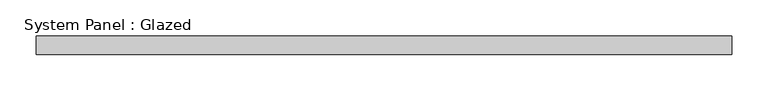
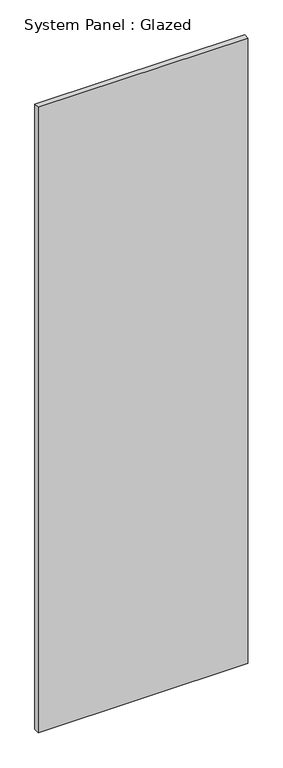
"""IFC4 building model written with IfcOpenShell, lengths in millimetres: plate geometry, System Panel : Glazed."""

import ifcopenshell
import ifcopenshell.guid

model = None  # the IFC model being written
_history = None  # IfcOwnerHistory: only IFC2X3 demands one
_inside = {}  # id of a spatial element -> (the spatial element, [elements in it])
_under = {}  # id of a project, library or spatial element -> (it, [spatial elements below it])
_declared = {}  # id of a project -> (the project, [libraries it declares])
_typed = {}  # id of a type object -> (the type object, [elements of that type])
_made_of = {}  # id of a material, layer set ... -> (it, [elements and type objects made of it])


def new_model(schema):
    """Start an empty IFC model of exactly this schema.

    Asked for "IFC4X3", IfcOpenShell would pick the latest addendum, in which some entities
    have other attributes; the version numbers below select the first issue.
    IFC2X3 requires an IfcOwnerHistory on every rooted entity: one is made here for all.
    """
    global model, _history
    if schema == "IFC4X3":
        model = ifcopenshell.file(schema_version=(4, 3, 0, 0))
    else:
        model = ifcopenshell.file(schema=schema)
    _inside.clear()
    _under.clear()
    _declared.clear()
    _typed.clear()
    _made_of.clear()
    _history = None
    if model.schema == "IFC2X3":
        org = make("IfcOrganization", Name="unknown")
        user = make(
            "IfcPersonAndOrganization",
            ThePerson=make("IfcPerson", FamilyName="unknown"),
            TheOrganization=org,
        )
        app = make(
            "IfcApplication",
            ApplicationDeveloper=org,
            Version="unknown",
            ApplicationFullName="unknown",
            ApplicationIdentifier="unknown",
        )
        _history = make(
            "IfcOwnerHistory",
            OwningUser=user,
            OwningApplication=app,
            ChangeAction="ADDED",
            CreationDate=0,
        )
    return model


def make(cls, **values):
    """One entity of the class cls with the attributes given. An attribute that is None is left unset."""
    return model.create_entity(
        cls, **{name: value for name, value in values.items() if value is not None}
    )


def rooted(cls, **values):
    """An entity with a GlobalId (a new one), such as an element, a storey or a relation."""
    return make(cls, GlobalId=ifcopenshell.guid.new(), OwnerHistory=_history, **values)


def si_unit(unit_type, name, prefix=None):
    """IfcSIUnit, for example si_unit("LENGTHUNIT", "METRE", prefix="MILLI")."""
    return make("IfcSIUnit", UnitType=unit_type, Prefix=prefix, Name=name)


def assignment(units):
    """IfcUnitAssignment: the units of a project."""
    return None if units is None else make("IfcUnitAssignment", Units=units)


def point(xyz):
    """IfcCartesianPoint."""
    return None if xyz is None else make("IfcCartesianPoint", Coordinates=xyz)


def direction(xyz):
    """IfcDirection."""
    return None if xyz is None else make("IfcDirection", DirectionRatios=xyz)


def frame(location, z_axis=None, x_axis=None):
    """IfcAxis2Placement3D, a coordinate frame: its origin and axes. An axis left out is left unset."""
    return make(
        "IfcAxis2Placement3D",
        Location=point(location),
        Axis=direction(z_axis),
        RefDirection=direction(x_axis),
    )


def origin():
    """The frame at (0, 0, 0) with its axes left unset."""
    return frame((0.0, 0.0, 0.0))


def origin_with_axes():
    """The frame at (0, 0, 0) with the z axis (0, 0, 1) and the x axis (1, 0, 0) written out."""
    return frame((0.0, 0.0, 0.0), z_axis=(0.0, 0.0, 1.0), x_axis=(1.0, 0.0, 0.0))


def place(relative_to, where):
    """IfcLocalPlacement: puts the frame where relative to a parent placement (None: the world)."""
    return make(
        "IfcLocalPlacement", PlacementRelTo=relative_to, RelativePlacement=where
    )


def context(
    kind, dimensions, precision=None, world=None, true_north=None, identifier=None
):
    """IfcGeometricRepresentationContext, for example the 3D "Model" context."""
    return make(
        "IfcGeometricRepresentationContext",
        ContextIdentifier=identifier,
        ContextType=kind,
        CoordinateSpaceDimension=dimensions,
        Precision=precision,
        WorldCoordinateSystem=world,
        TrueNorth=true_north,
    )


def project(units=None, contexts=None):
    """IfcProject with its units and contexts."""
    return rooted(
        "IfcProject",
        Name="project",
        RepresentationContexts=contexts,
        UnitsInContext=assignment(units),
    )


def spatial(cls, under=None, at=None, **own):
    """A site, building, storey or space (cls), placed at a placement, below another one or the project."""
    s = rooted(cls, ObjectPlacement=at, **own)
    if under is not None:
        _under.setdefault(under.id(), (under, []))[1].append(s)
    return s


def polyline(points):
    """IfcPolyline through the points."""
    return make("IfcPolyline", Points=[point(p) for p in points])


def outline(outer, holes=None, kind="AREA"):
    """IfcArbitraryClosedProfileDef: a profile drawn as a closed curve; with holes, ...WithVoids."""
    if holes is None:
        return make("IfcArbitraryClosedProfileDef", ProfileType=kind, OuterCurve=outer)
    return make(
        "IfcArbitraryProfileDefWithVoids",
        ProfileType=kind,
        OuterCurve=outer,
        InnerCurves=holes,
    )


def extrude(swept, where, along, depth):
    """IfcExtrudedAreaSolid: the profile swept, set in the frame where, extruded along a direction by depth."""
    return make(
        "IfcExtrudedAreaSolid",
        SweptArea=swept,
        Position=where,
        ExtrudedDirection=direction(along),
        Depth=depth,
    )


def shape(context_of_items, identifier, shape_type, items):
    """IfcShapeRepresentation: the items that make up one representation, for example the "Body"."""
    return make(
        "IfcShapeRepresentation",
        ContextOfItems=context_of_items,
        RepresentationIdentifier=identifier,
        RepresentationType=shape_type,
        Items=items,
    )


def source(mapping_origin, context_of_items, identifier, shape_type, items):
    """IfcRepresentationMap: a shape defined once, which mapped items show again and again."""
    return make(
        "IfcRepresentationMap",
        MappingOrigin=mapping_origin,
        MappedRepresentation=shape(context_of_items, identifier, shape_type, items),
    )


def transform(
    local_origin,
    x_axis=None,
    y_axis=None,
    z_axis=None,
    scale=None,
    scale2=None,
    scale3=None,
    uniform=True,
):
    """IfcCartesianTransformationOperator3D, or its non-uniform kind. x_axis, y_axis, z_axis: its Axis1, 2, 3."""
    if uniform:
        return make(
            "IfcCartesianTransformationOperator3D",
            Axis1=direction(x_axis),
            Axis2=direction(y_axis),
            LocalOrigin=point(local_origin),
            Scale=scale,
            Axis3=direction(z_axis),
        )
    return make(
        "IfcCartesianTransformationOperator3DnonUniform",
        Axis1=direction(x_axis),
        Axis2=direction(y_axis),
        LocalOrigin=point(local_origin),
        Scale=scale,
        Axis3=direction(z_axis),
        Scale2=scale2,
        Scale3=scale3,
    )


def mapped(mapping_source, mapping_target):
    """IfcMappedItem: shows the shape of a source again, moved by a transform."""
    return make(
        "IfcMappedItem", MappingSource=mapping_source, MappingTarget=mapping_target
    )


def made_of(thing, what):
    """Note that an element or type object is made of a material, layer set ...; save() writes the relation."""
    if what is not None:
        _made_of.setdefault(what.id(), (what, []))[1].append(thing)
    return thing


def element(
    cls,
    number,
    at=None,
    inside=None,
    cuts=None,
    type_object=None,
    material=None,
    context=None,
    identifier="Body",
    shape_type=None,
    held_by="IfcProductDefinitionShape",
    body=None,
    shapes=None,
    **own,
):
    """One element of the class cls, such as IfcWall. Its Tag is "e" and its number.

    at: its placement. inside: the storey or other place that contains it. cuts: it is an
    opening in that element (IfcRelVoidsElement). A single representation is given by context,
    identifier, shape_type and body (its items); several are given by shapes. held_by: the class
    of the entity that holds the representations. save() writes the other relations.
    """
    e = rooted(cls, Tag="e%d" % number, ObjectPlacement=at, **own)
    if body is not None:
        shapes = [shape(context, identifier, shape_type, body)]
    if shapes is not None:
        e.Representation = make(held_by, Representations=shapes)
    if inside is not None:
        _inside.setdefault(inside.id(), (inside, []))[1].append(e)
    if cuts is not None:
        rooted(
            "IfcRelVoidsElement", RelatingBuildingElement=cuts, RelatedOpeningElement=e
        )
    if type_object is not None:
        _typed.setdefault(type_object.id(), (type_object, []))[1].append(e)
    return made_of(e, material)


def aggregate(whole, parts):
    """IfcRelAggregates: a whole, such as a stair, and the parts it consists of."""
    return rooted("IfcRelAggregates", RelatingObject=whole, RelatedObjects=parts)


def save(model, path):
    """Write the relations noted so far, then the file.

    IfcRelAggregates (storeys below a building ...), IfcRelContainedInSpatialStructure (elements
    in a storey), IfcRelDefinesByType, IfcRelAssociatesMaterial and IfcRelDeclares: one each for
    every whole, place, type object, material and project.
    """
    for whole, parts in _under.values():
        aggregate(whole, parts)
    for where, things in _inside.values():
        rooted(
            "IfcRelContainedInSpatialStructure",
            RelatedElements=things,
            RelatingStructure=where,
        )
    for kind, things in _typed.values():
        rooted("IfcRelDefinesByType", RelatedObjects=things, RelatingType=kind)
    for what, things in _made_of.values():
        rooted("IfcRelAssociatesMaterial", RelatedObjects=things, RelatingMaterial=what)
    for by, libraries in _declared.values():
        rooted("IfcRelDeclares", RelatingContext=by, RelatedDefinitions=libraries)
    model.write(path)


def system_panel_glazed_34ba24c1(model_context):
    return source(origin(), model_context, "Body", "SweptSolid", [
        extrude(outline(polyline([(477.4359697, -72.5), (-477.4359697, -72.5), (-477.4359697, -47.5), (477.4359697, -47.5), (477.4359697, -72.5)])), origin_with_axes(), (0.0, 0.0, 1.0), 3012.4038106),
    ])


if __name__ == "__main__":
    model = new_model("IFC4")
    model_context = context("Model", 3, world=origin())
    ifc_project = project(units=[si_unit("LENGTHUNIT", "METRE", prefix="MILLI")], contexts=[model_context])
    site = spatial("IfcSite", under=ifc_project)
    building = spatial("IfcBuilding", under=site)
    placement = place(None, origin())
    system_panel_glazed_shape = system_panel_glazed_34ba24c1(model_context)
    element("IfcPlate", 1, ObjectType="System Panel : Glazed", at=placement, inside=building, context=model_context, shape_type="MappedRepresentation", body=[
        mapped(system_panel_glazed_shape, transform((0.0, 0.0, 0.0), x_axis=(1.0, 0.0, 0.0), y_axis=(0.0, 1.0, 0.0), z_axis=(0.0, 0.0, 1.0))),
    ])
    save(model, "model.ifc")
